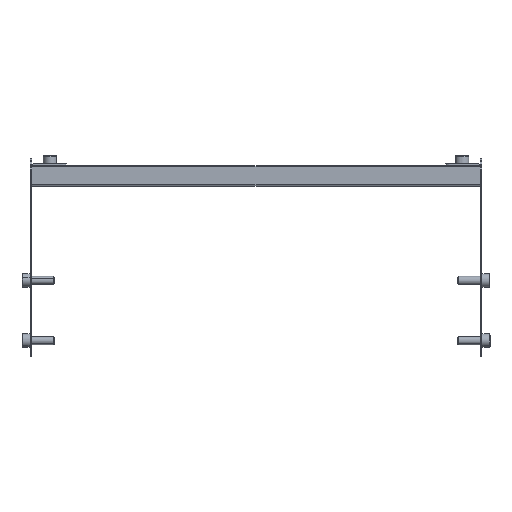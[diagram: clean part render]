
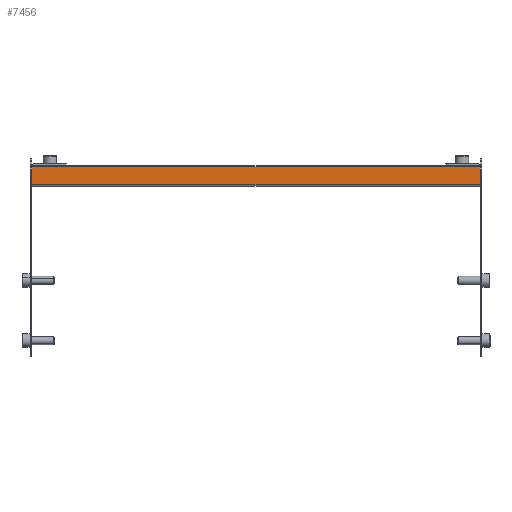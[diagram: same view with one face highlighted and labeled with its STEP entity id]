
A CAD part, front view. The second image highlights one B-rep face of the part: STEP entity #7456.
In plain terms, the highlighted planar face has unit normal (0, -1, 0) as drawn and (1, 0, 0) by its records, which use the part's own axes.
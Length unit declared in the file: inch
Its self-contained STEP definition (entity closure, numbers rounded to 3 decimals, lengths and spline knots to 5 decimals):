
#290 = ORIENTED_EDGE ( 'NONE', *, *, #1690, .T. ) ;
#684 = ORIENTED_EDGE ( 'NONE', *, *, #2433, .T. ) ;
#991 = CARTESIAN_POINT ( 'NONE',  ( 0.78127, 0.26528, -6.519 ) ) ;
#1101 = EDGE_CURVE ( 'NONE', #5746, #2505, #1645, .T. ) ;
#1285 = EDGE_LOOP ( 'NONE', ( #4449, #290, #2341, #684 ) ) ;
#1315 = CARTESIAN_POINT ( 'NONE',  ( 0.78127, -0.26528, 6.519 ) ) ;
#1645 = LINE ( 'NONE', #5962, #6617 ) ;
#1690 = EDGE_CURVE ( 'NONE', #5746, #2312, #3617, .T. ) ;
#1967 = LINE ( 'NONE', #7404, #6843 ) ;
#2019 = LINE ( 'NONE', #7772, #5494 ) ;
#2274 = CARTESIAN_POINT ( 'NONE',  ( 0.78127, 0.26528, 6.519 ) ) ;
#2312 = VERTEX_POINT ( 'NONE', #5922 ) ;
#2341 = ORIENTED_EDGE ( 'NONE', *, *, #4311, .T. ) ;
#2433 = EDGE_CURVE ( 'NONE', #2469, #2505, #1967, .T. ) ;
#2469 = VERTEX_POINT ( 'NONE', #991 ) ;
#2505 = VERTEX_POINT ( 'NONE', #2274 ) ;
#2686 = FACE_OUTER_BOUND ( 'NONE', #1285, .T. ) ;
#3302 = DIRECTION ( 'NONE',  ( 0., 1., 0. ) ) ;
#3347 = CARTESIAN_POINT ( 'NONE',  ( 0.78127, -0.26528, 6.519 ) ) ;
#3498 = DIRECTION ( 'NONE',  ( -1., 0., 0. ) ) ;
#3568 = DIRECTION ( 'NONE',  ( 0., 0., 1. ) ) ;
#3617 = LINE ( 'NONE', #3347, #5115 ) ;
#4013 = DIRECTION ( 'NONE',  ( 0., 1., 0. ) ) ;
#4193 = CARTESIAN_POINT ( 'NONE',  ( 0.78127, 0.29528, 6.519 ) ) ;
#4311 = EDGE_CURVE ( 'NONE', #2312, #2469, #2019, .T. ) ;
#4449 = ORIENTED_EDGE ( 'NONE', *, *, #1101, .F. ) ;
#5115 = VECTOR ( 'NONE', #6547, 39.37008 ) ;
#5387 = DIRECTION ( 'NONE',  ( 0., 0., 1. ) ) ;
#5494 = VECTOR ( 'NONE', #4013, 39.37008 ) ;
#5672 = AXIS2_PLACEMENT_3D ( 'NONE', #4193, #3498, #5387 ) ;
#5746 = VERTEX_POINT ( 'NONE', #1315 ) ;
#5922 = CARTESIAN_POINT ( 'NONE',  ( 0.78127, -0.26528, -6.519 ) ) ;
#5962 = CARTESIAN_POINT ( 'NONE',  ( 0.78127, 0.29528, 6.519 ) ) ;
#6547 = DIRECTION ( 'NONE',  ( 0., 0., -1. ) ) ;
#6617 = VECTOR ( 'NONE', #3302, 39.37008 ) ;
#6843 = VECTOR ( 'NONE', #3568, 39.37008 ) ;
#7404 = CARTESIAN_POINT ( 'NONE',  ( 0.78127, 0.26528, 6.519 ) ) ;
#7456 = ADVANCED_FACE ( 'NONE', ( #2686 ), #8003, .F. ) ;
#7772 = CARTESIAN_POINT ( 'NONE',  ( 0.78127, 0.29528, -6.519 ) ) ;
#8003 = PLANE ( 'NONE',  #5672 ) ;
